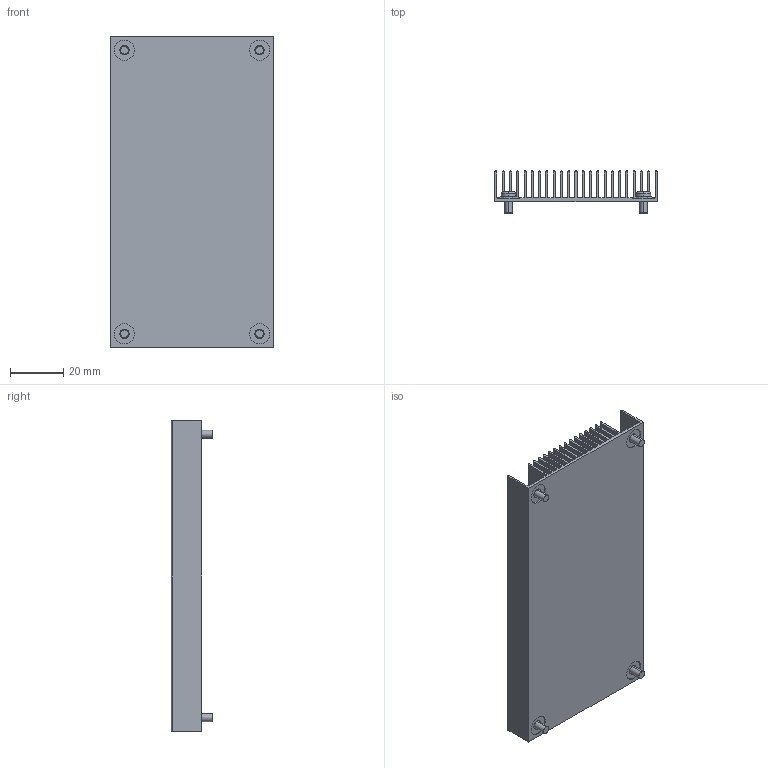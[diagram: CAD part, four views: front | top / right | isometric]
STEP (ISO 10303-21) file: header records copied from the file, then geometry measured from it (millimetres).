
FILE_DESCRIPTION (( 'STEP AP214' ), '1' );
FILE_NAME ('HS1592EBK06.STEP', '2023-03-03T19:11:47', ( '' ), ( '' ), 'SwSTEP 2.0', 'SolidWorks 2020', '' );
FILE_SCHEMA (( 'AUTOMOTIVE_DESIGN' ));
Length unit declared in the file: millimetre
Products named in the file (1): HS1592EBK06
Bounding box: 60.96 x 15.65 x 116.84 mm (x, y, z)
Volume: 29193.8 mm3; surface area: 66473.4 mm2
Topology: 5 solids, 5 shells, 574 faces, 1518 edges, 966 vertices
Faces by surface type: plane 401, cylinder 165, torus 8
Entity records: 24237 total; most frequent: CARTESIAN_POINT 3354, DIRECTION 3037, ORIENTED_EDGE 3036, EDGE_CURVE 1518, VECTOR 1099, LINE 1099, AXIS2_PLACEMENT_3D 969, VERTEX_POINT 966
